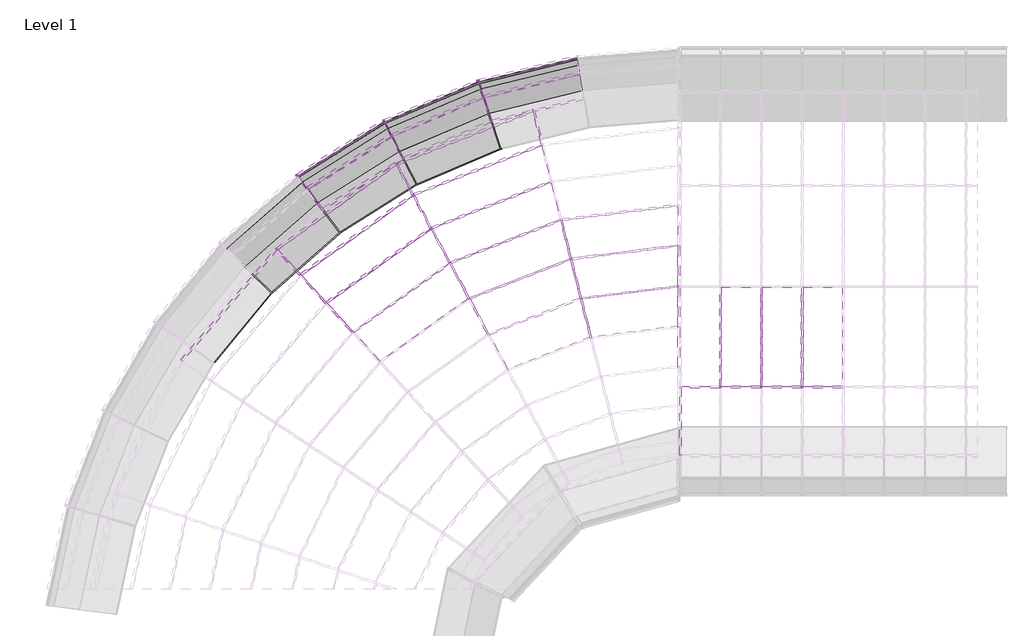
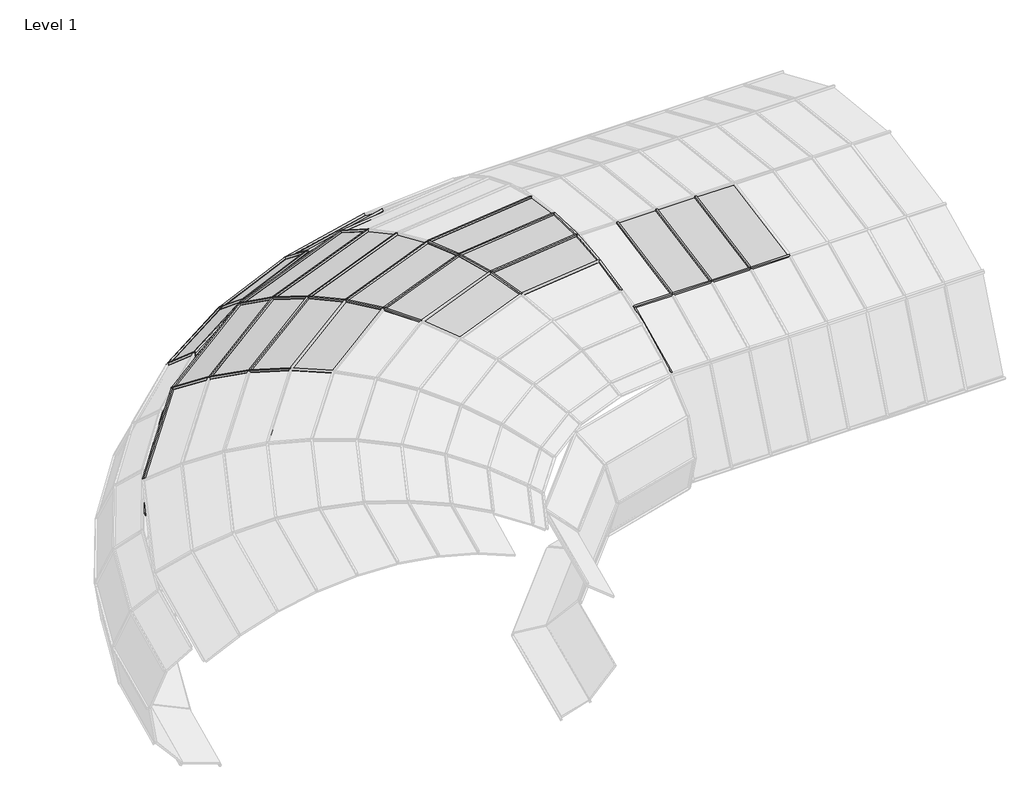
# One storey, part 16 of 23: 70 members, 32 plates.
"""IFC4 building model written with IfcOpenShell, lengths in millimetres."""

from ifc_helpers import new_model, si_unit, origin, place, context, project, spatial, transform, mapped, element, save
from components import member_6c4aaba8, member_0ea93e7c, member_bc92414a, member_01d9c279, member_f1f58849, member_12c77cbe, member_302b4213, member_af15374c, member_9c203333, member_86c07ba8, member_0e8a41c0, member_f532ae18, member_ff5bcfe9, member_5080b2ef, member_3e1f1dd8, member_d6b8231b, member_8c9da58c, member_391bee44, member_01ebdf2a, member_0cd36c09, member_e4cc2466, member_7149052c, member_309acb9e, member_fc38b671, member_bfbbd4af, member_a1b02127, system_panel_glazed_6e806f8e, system_panel_glazed_dfe8d515, system_panel_glazed_f0cf6c0b, system_panel_glazed_2b57bb89, system_panel_glazed_39caee5c, system_panel_glazed_2fe36e08, system_panel_glazed_8ac96967, system_panel_glazed_5e26bc8e, system_panel_glazed_f7be4813, system_panel_glazed_847a2d71, system_panel_glazed_5b1ce257, system_panel_glazed_11c8000a, system_panel_glazed_7bf4cd1b, system_panel_glazed_aea5d21f, system_panel_glazed_9f229a92

model = new_model("IFC4")

# Units and contexts
model_context = context("Model", 3, world=origin())
ifc_project = project(units=[si_unit("LENGTHUNIT", "METRE", prefix="MILLI")], contexts=[model_context])

# Site, building, storey
site = spatial("IfcSite", under=ifc_project)
building = spatial("IfcBuilding", under=site)
storey = spatial("IfcBuildingStorey", under=building, Name="Level 1", Elevation=0.0)

# Members
placement = place(None, origin())
member_shape = member_6c4aaba8(model_context)
element("IfcMember", 1, ObjectType="Rectangular Mullion : 1\" Square", at=placement, inside=storey, context=model_context, shape_type="MappedRepresentation", body=[
    mapped(member_shape, transform((-13870.6040784, 6009.9492025, 2378.3537392), x_axis=(0.32857999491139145, -0.8438545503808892, 0.4241988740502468), y_axis=(-0.15391787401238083, 0.39528973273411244, 0.9055690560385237), z_axis=(-0.9318500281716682, -0.3628436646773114, 0.0))),
])
element("IfcMember", 2, ObjectType="Rectangular Mullion : 1\" Square", at=placement, inside=storey, context=model_context, shape_type="MappedRepresentation", body=[
    mapped(member_shape, transform((-15552.429602, 4815.9839844, 2378.3537392), x_axis=(0.5253290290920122, -0.7376209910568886, 0.42419887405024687), y_axis=(-0.24608171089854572, 0.34552637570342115, 0.9055690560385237), z_axis=(-0.8145386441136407, -0.580109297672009, 0.0))),
])
member_2_shape = member_0ea93e7c(model_context)
element("IfcMember", 3, ObjectType="Rectangular Mullion : 1\" Square", at=placement, inside=storey, context=model_context, shape_type="MappedRepresentation", body=[
    mapped(member_2_shape, transform((-13322.0782596, 4994.0562422, 2763.3769688), x_axis=(0.3555541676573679, -0.9131292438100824, 0.1994397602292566), y_axis=(-0.07236545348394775, 0.18584794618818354, 0.97991008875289), z_axis=(-0.9318500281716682, -0.3628436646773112, 0.0))),
])
member_3_shape = member_bc92414a(model_context)
element("IfcMember", 4, ObjectType="Rectangular Mullion : 1\" Square", at=placement, inside=storey, context=model_context, shape_type="MappedRepresentation", body=[
    mapped(member_3_shape, transform((-11516.7637039, 5051.1067685, 2850.17796), x_axis=(0.12303904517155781, -0.9889921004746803, 0.082195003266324), y_axis=(-0.010147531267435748, 0.08156620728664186, 0.9966162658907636), z_axis=(-0.9923499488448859, -0.12345679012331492, 0.0))),
])
member_4_shape = member_01d9c279(model_context)
element("IfcMember", 5, ObjectType="Rectangular Mullion : 1\" Square", at=placement, inside=storey, context=model_context, shape_type="MappedRepresentation", body=[
    mapped(member_4_shape, transform((-13035.4016564, 4463.1190773, 2850.17796), x_axis=(0.36161589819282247, -0.9286968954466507, 0.082195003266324), y_axis=(-0.029823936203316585, 0.07659341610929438, 0.9966162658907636), z_axis=(-0.9318500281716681, -0.3628436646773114, 0.0))),
])
member_5_shape = member_f1f58849(model_context)
element("IfcMember", 6, ObjectType="Rectangular Mullion : 1\" Square", at=placement, inside=storey, context=model_context, shape_type="MappedRepresentation", body=[
    mapped(member_5_shape, transform((-11367.4380098, 4460.252916, 2864.5209769), x_axis=(0.12337601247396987, -0.9917006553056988, -0.03616863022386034), y_axis=(0.004465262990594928, -0.035891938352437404, 0.9993457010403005), z_axis=(-0.9923499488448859, -0.1234567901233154, 0.0))),
])
member_6_shape = member_12c77cbe(model_context)
element("IfcMember", 7, ObjectType="Rectangular Mullion : 1\" Square", at=placement, inside=storey, context=model_context, shape_type="MappedRepresentation", body=[
    mapped(member_6_shape, transform((-13601.8055633, 5512.1230112, 2605.3528615), x_axis=(0.34449616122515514, -0.8847302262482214, 0.3139662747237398), y_axis=(-0.11392067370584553, 0.2925694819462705, 0.9494341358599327), z_axis=(-0.9318500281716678, -0.36284366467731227, 0.0))),
])
element("IfcMember", 8, ObjectType="Rectangular Mullion : 1\" Square", at=placement, inside=storey, context=model_context, shape_type="MappedRepresentation", body=[
    mapped(member_6_shape, transform((-15169.845212, 4399.1953773, 2605.3528615), x_axis=(0.5507755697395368, -0.7733507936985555, 0.31396627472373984), y_axis=(-0.18213475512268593, 0.2557376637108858, 0.9494341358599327), z_axis=(-0.8145386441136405, -0.5801092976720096, 0.0))),
])
member_7_shape = member_302b4213(model_context)
element("IfcMember", 9, ObjectType="Rectangular Mullion : 1\" Square", at=placement, inside=storey, context=model_context, shape_type="MappedRepresentation", body=[
    mapped(member_7_shape, transform((-11664.6087907, 5636.1021345, 2763.3769688), x_axis=(0.12097655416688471, -0.9724137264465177, 0.19943976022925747), y_axis=(-0.024622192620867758, 0.19791403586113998, 0.9799100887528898), z_axis=(-0.9923499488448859, -0.12345679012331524, 0.0))),
])
member_8_shape = member_af15374c(model_context)
element("IfcMember", 10, ObjectType="Rectangular Mullion : 1\" Square", at=placement, inside=storey, context=model_context, shape_type="MappedRepresentation", body=[
    mapped(member_8_shape, transform((-12102.9489621, 7267.6622372, 2085.6089632), x_axis=(-0.317700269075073, 0.8159133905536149, -0.4830650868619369), y_axis=(-0.17527710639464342, 0.4501442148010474, 0.8755844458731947), z_axis=(0.9318500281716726, 0.3628436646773, 0.0))),
])
element("IfcMember", 11, ObjectType="Rectangular Mullion : 1\" Square", at=placement, inside=storey, context=model_context, shape_type="MappedRepresentation", body=[
    mapped(member_8_shape, transform((-14146.8289283, 6468.4770808, 2085.6089632), x_axis=(-0.5079346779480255, 0.713197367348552, -0.4830650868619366), y_axis=(-0.2802305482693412, 0.39347518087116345, 0.875584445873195), z_axis=(0.8145386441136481, 0.5801092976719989, 0.0))),
])
element("IfcMember", 12, ObjectType="Rectangular Mullion : 1\" Square", at=placement, inside=storey, context=model_context, shape_type="MappedRepresentation", body=[
    mapped(member_8_shape, transform((-15932.5848922, 5192.8525797, 2085.6089632), x_axis=(-0.6672021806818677, 0.5670003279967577, -0.483065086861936), y_axis=(-0.36809936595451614, 0.3128174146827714, 0.8755844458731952), z_axis=(0.6475678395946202, 0.7620078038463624, 0.0))),
])
member_9_shape = member_9c203333(model_context)
element("IfcMember", 13, ObjectType="Rectangular Mullion : 1\" Square", at=placement, inside=storey, context=model_context, shape_type="MappedRepresentation", body=[
    mapped(member_9_shape, transform((-12588.5806813, 6676.4681732, 0.0), x_axis=(0.3741630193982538, -0.8837244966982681, -0.28112817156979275), y_axis=(-0.1096082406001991, 0.25888044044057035, -0.9596702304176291), z_axis=(0.9208626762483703, 0.3898870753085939, 0.0))),
])
element("IfcMember", 14, ObjectType="Rectangular Mullion : 1\" Square", at=placement, inside=storey, context=model_context, shape_type="MappedRepresentation", body=[
    mapped(member_9_shape, transform((-13834.1073019, 6146.9205679, 0.0), x_axis=(0.5103428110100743, -0.8127220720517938, -0.28112817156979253), y_axis=(-0.14950108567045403, 0.23808081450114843, -0.9596702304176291), z_axis=(0.8468764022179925, 0.531789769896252, 0.0))),
])
element("IfcMember", 15, ObjectType="Rectangular Mullion : 1\" Square", at=placement, inside=storey, context=model_context, shape_type="MappedRepresentation", body=[
    mapped(member_9_shape, transform((-14979.2117366, 5425.4685167, 0.0), x_axis=(0.6334525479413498, -0.7209055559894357, -0.28112817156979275), y_axis=(-0.1855651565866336, 0.2111838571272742, -0.959670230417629), z_axis=(0.7512013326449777, 0.6600731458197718, 0.0))),
])
element("IfcMember", 16, ObjectType="Rectangular Mullion : 1\" Square", at=placement, inside=storey, context=model_context, shape_type="MappedRepresentation", body=[
    mapped(member_9_shape, transform((-15994.5674676, 4530.5886543, 0.0), x_axis=(0.7403393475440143, -0.6106264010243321, -0.2811281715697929), y_axis=(-0.2168768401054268, 0.1788784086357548, -0.9596702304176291), z_axis=(0.6362877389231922, 0.7714518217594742, 0.0))),
])
member_10_shape = member_86c07ba8(model_context)
element("IfcMember", 17, ObjectType="Rectangular Mullion : 1\" Square", at=placement, inside=storey, context=model_context, shape_type="MappedRepresentation", body=[
    mapped(member_10_shape, transform((-12748.8495304, 7239.8248197, 170.8694653), x_axis=(-0.20088097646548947, 0.8197872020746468, 0.5362795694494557), y_axis=(-0.1276341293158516, 0.5208697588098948, -0.8440404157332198), z_axis=(-0.9712653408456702, -0.23799923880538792, 0.0))),
])
element("IfcMember", 18, ObjectType="Rectangular Mullion : 1\" Square", at=placement, inside=storey, context=model_context, shape_type="MappedRepresentation", body=[
    mapped(member_10_shape, transform((-14082.1900751, 6677.4973793, 170.8694653), x_axis=(-0.32908044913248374, 0.7772453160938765, 0.536279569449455), y_axis=(-0.2090884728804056, 0.49383983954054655, -0.8440404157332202), z_axis=(-0.9208626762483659, -0.3898870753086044, 0.0))),
])
element("IfcMember", 19, ObjectType="Rectangular Mullion : 1\" Square", at=placement, inside=storey, context=model_context, shape_type="MappedRepresentation", body=[
    mapped(member_10_shape, transform((-15308.754949, 5909.6772385, 170.8694653), x_axis=(-0.4488520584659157, 0.7147979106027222, 0.5362795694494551), y_axis=(-0.28518798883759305, 0.45416251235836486, -0.8440404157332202), z_axis=(-0.8468764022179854, -0.5317897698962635, 0.0))),
])
member_11_shape = member_0e8a41c0(model_context)
element("IfcMember", 20, ObjectType="Rectangular Mullion : 1\" Square", at=placement, inside=storey, context=model_context, shape_type="MappedRepresentation", body=[
    mapped(member_11_shape, transform((-12875.2293221, 7620.6688342, 629.7792003), x_axis=(-0.10050189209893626, 0.4101441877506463, 0.9064662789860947), y_axis=(-0.21573828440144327, 0.8804192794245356, -0.42227820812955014), z_axis=(-0.9712653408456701, -0.23799923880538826, 0.0))),
])
element("IfcMember", 21, ObjectType="Rectangular Mullion : 1\" Square", at=placement, inside=storey, context=model_context, shape_type="MappedRepresentation", body=[
    mapped(member_11_shape, transform((-14267.7034794, 7033.3046192, 629.7792003), x_axis=(-0.16464081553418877, 0.3888602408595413, 0.9064662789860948), y_axis=(-0.3534194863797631, 0.8347309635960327, -0.42227820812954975), z_axis=(-0.9208626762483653, -0.3898870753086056, 0.0))),
])
element("IfcMember", 22, ObjectType="Rectangular Mullion : 1\" Square", at=placement, inside=storey, context=model_context, shape_type="MappedRepresentation", body=[
    mapped(member_11_shape, transform((-15548.650904, 6231.3353582, 629.7792003), x_axis=(-0.2245632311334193, 0.357617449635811, 0.9064662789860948), y_axis=(-0.48204949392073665, 0.7676649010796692, -0.42227820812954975), z_axis=(-0.846876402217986, -0.5317897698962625, 0.0))),
])
member_12_shape = member_f532ae18(model_context)
element("IfcMember", 23, ObjectType="Rectangular Mullion : 1\" Square", at=placement, inside=storey, context=model_context, shape_type="MappedRepresentation", body=[
    mapped(member_12_shape, transform((-12903.9730127, 7707.2876077, 1232.5089476), x_axis=(0.031882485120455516, -0.13011114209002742, 0.9909866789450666), y_axis=(-0.2358540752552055, 0.9625110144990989, 0.13396044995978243), z_axis=(-0.9712653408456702, -0.2379992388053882, 0.0))),
])
element("IfcMember", 24, ObjectType="Rectangular Mullion : 1\" Square", at=placement, inside=storey, context=model_context, shape_type="MappedRepresentation", body=[
    mapped(member_12_shape, transform((-14309.8964585, 7114.2290542, 1232.5089476), x_axis=(0.05222944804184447, -0.12335917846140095, 0.9909866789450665), y_axis=(-0.38637289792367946, 0.9125626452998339, 0.13396044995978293), z_axis=(-0.9208626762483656, -0.3898870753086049, 0.0))),
])
element("IfcMember", 25, ObjectType="Rectangular Mullion : 1\" Square", at=placement, inside=storey, context=model_context, shape_type="MappedRepresentation", body=[
    mapped(member_12_shape, transform((-15603.2125948, 6304.4929522, 1232.5089476), x_axis=(0.07123879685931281, -0.11344794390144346, 0.9909866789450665), y_axis=(-0.5269965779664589, 0.8392432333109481, 0.13396044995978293), z_axis=(-0.8468764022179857, -0.531789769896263, 0.0))),
])
member_13_shape = member_ff5bcfe9(model_context)
element("IfcMember", 26, ObjectType="Rectangular Mullion : 1\" Square", at=placement, inside=storey, context=model_context, shape_type="MappedRepresentation", body=[
    mapped(member_13_shape, transform((-12826.0474045, 7472.4597045, 1789.6405438), x_axis=(0.15408048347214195, -0.6287962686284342, 0.7621512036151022), y_axis=(-0.18139140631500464, 0.7402510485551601, 0.6473990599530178), z_axis=(-0.9712653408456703, -0.23799923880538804, 0.0))),
])
element("IfcMember", 27, ObjectType="Rectangular Mullion : 1\" Square", at=placement, inside=storey, context=model_context, shape_type="MappedRepresentation", body=[
    mapped(member_13_shape, transform((-14195.5091448, 6894.8387923, 1789.6405438), x_axis=(0.25241252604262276, -0.5961656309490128, 0.7621512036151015), y_axis=(-0.2971529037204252, 0.7018365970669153, 0.6473990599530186), z_axis=(-0.9208626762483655, -0.3898870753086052, 0.0))),
])
element("IfcMember", 28, ObjectType="Rectangular Mullion : 1\" Square", at=placement, inside=storey, context=model_context, shape_type="MappedRepresentation", body=[
    mapped(member_13_shape, transform((-15455.2930741, 6106.1589916, 1789.6405438), x_axis=(0.34428019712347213, -0.5482669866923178, 0.7621512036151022), y_axis=(-0.40530421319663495, 0.6454478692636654, 0.6473990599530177), z_axis=(-0.8468764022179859, -0.5317897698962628, 0.0))),
])
member_14_shape = member_5080b2ef(model_context)
element("IfcMember", 29, ObjectType="Rectangular Mullion : 1\" Square", at=placement, inside=storey, context=model_context, shape_type="MappedRepresentation", body=[
    mapped(member_14_shape, transform((-12700.4125264, 7093.8604783, 2085.6089632), x_axis=(0.19091613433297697, -0.7791210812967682, 0.5970941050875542), y_axis=(-0.14210794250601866, 0.5799368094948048, 0.8021711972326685), z_axis=(-0.9712653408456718, -0.23799923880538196, 0.0))),
])
element("IfcMember", 30, ObjectType="Rectangular Mullion : 1\" Square", at=placement, inside=storey, context=model_context, shape_type="MappedRepresentation", body=[
    mapped(member_14_shape, transform((-14011.0892022, 6541.1287679, 2085.6089632), x_axis=(0.31275618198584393, -0.7386895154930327, 0.5970941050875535), y_axis=(-0.2327992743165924, 0.5498416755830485, 0.8021711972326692), z_axis=(-0.9208626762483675, -0.3898870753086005, 0.0))),
])
element("IfcMember", 31, ObjectType="Rectangular Mullion : 1\" Square", at=placement, inside=storey, context=model_context, shape_type="MappedRepresentation", body=[
    mapped(member_14_shape, transform((-15216.8111249, 5786.396804, 2085.6089632), x_axis=(0.4265864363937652, -0.6793398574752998, 0.5970941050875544), y_axis=(-0.31752853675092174, 0.5056649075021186, 0.8021711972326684), z_axis=(-0.84687640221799, -0.5317897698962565, 0.0))),
])
member_15_shape = member_3e1f1dd8(model_context)
element("IfcMember", 32, ObjectType="Rectangular Mullion : 1\" Square", at=placement, inside=storey, context=model_context, shape_type="MappedRepresentation", body=[
    mapped(member_15_shape, transform((-9303.3499814, 3134.3722562, 2579.8319299), x_axis=(0.0, -0.9436447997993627, -0.33095995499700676), y_axis=(0.0, -0.33095995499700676, 0.9436447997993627), z_axis=(-1.0, 0.0, 0.0))),
])
element("IfcMember", 33, ObjectType="Rectangular Mullion : 1\" Square", at=placement, inside=storey, context=model_context, shape_type="MappedRepresentation", body=[
    mapped(member_15_shape, transform((-8693.7499814, 3134.3722562, 2579.8319299), x_axis=(0.0, -0.9436447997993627, -0.33095995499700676), y_axis=(0.0, -0.33095995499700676, 0.9436447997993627), z_axis=(-1.0, 0.0, 0.0))),
])
element("IfcMember", 34, ObjectType="Rectangular Mullion : 1\" Square", at=placement, inside=storey, context=model_context, shape_type="MappedRepresentation", body=[
    mapped(member_15_shape, transform((-8084.1499814, 3134.3722562, 2579.8319299), x_axis=(0.0, -0.9436447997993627, -0.33095995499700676), y_axis=(0.0, -0.33095995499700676, 0.9436447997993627), z_axis=(-1.0, 0.0, 0.0))),
])
element("IfcMember", 35, ObjectType="Rectangular Mullion : 1\" Square", at=placement, inside=storey, context=model_context, shape_type="MappedRepresentation", body=[
    mapped(member_15_shape, transform((-9912.9499814, 3134.3722562, 2579.8319299), x_axis=(0.0, -0.9436447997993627, -0.33095995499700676), y_axis=(0.0, -0.33095995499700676, 0.9436447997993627), z_axis=(-1.0, 0.0, 0.0))),
])
member_16_shape = member_d6b8231b(model_context)
element("IfcMember", 36, ObjectType="Rectangular Mullion : 1\" Square", at=placement, inside=storey, context=model_context, shape_type="MappedRepresentation", body=[
    mapped(member_16_shape, transform((-12576.8857253, 6681.4197391, 0.0), x_axis=(-0.9491072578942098, -0.31495303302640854, 0.0), y_axis=(-0.08828060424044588, 0.26603256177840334, -0.9599131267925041), z_axis=(0.3023275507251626, -0.9110605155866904, -0.2802976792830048))),
])
element("IfcMember", 37, ObjectType="Rectangular Mullion : 1\" Square", at=placement, inside=storey, context=model_context, shape_type="MappedRepresentation", body=[
    mapped(member_16_shape, transform((-13823.3519715, 6153.674298, 0.0), x_axis=(-0.8867127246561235, -0.4623208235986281, 0.0), y_axis=(-0.12958745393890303, 0.2485435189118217, -0.959913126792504), z_axis=(0.4437878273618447, -0.85116718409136, -0.2802976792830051))),
])
element("IfcMember", 38, ObjectType="Rectangular Mullion : 1\" Square", at=placement, inside=storey, context=model_context, shape_type="MappedRepresentation", body=[
    mapped(member_16_shape, transform((-15986.4866134, 4540.3860924, 0.0), x_axis=(-0.6959761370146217, -0.7180649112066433, 0.0), y_axis=(-0.2012719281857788, 0.1950804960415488, -0.9599131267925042), z_axis=(0.6892799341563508, -0.6680766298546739, -0.2802976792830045))),
])
element("IfcMember", 39, ObjectType="Rectangular Mullion : 1\" Square", at=placement, inside=storey, context=model_context, shape_type="MappedRepresentation", body=[
    mapped(member_16_shape, transform((-14969.6714797, 5433.8514456, 0.0), x_axis=(-0.8016091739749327, -0.5978484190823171, 0.0), y_axis=(-0.16757552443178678, 0.22468919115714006, -0.959913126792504), z_axis=(0.5738825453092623, -0.769475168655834, -0.28029767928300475))),
])
member_17_shape = member_8c9da58c(model_context)
element("IfcMember", 40, ObjectType="Rectangular Mullion : 1\" Square", at=placement, inside=storey, context=model_context, shape_type="MappedRepresentation", body=[
    mapped(member_17_shape, transform((-12761.1846002, 7236.8022294, 170.8694653), x_axis=(-0.949107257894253, -0.3149530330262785, 0.0), y_axis=(-0.23709811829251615, 0.7144923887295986, -0.658243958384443), z_axis=(0.20731593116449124, -0.6247441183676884, -0.7528046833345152))),
])
element("IfcMember", 41, ObjectType="Rectangular Mullion : 1\" Square", at=placement, inside=storey, context=model_context, shape_type="MappedRepresentation", body=[
    mapped(member_17_shape, transform((-12887.5643919, 7617.6462439, 629.7792003), x_axis=(-0.9491072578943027, -0.3149530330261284, 0.0), y_axis=(-0.3114034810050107, 0.9384107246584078, -0.1497103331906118), z_axis=(0.04715172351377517, -0.14209116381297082, -0.9887299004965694))),
])
element("IfcMember", 42, ObjectType="Rectangular Mullion : 1\" Square", at=placement, inside=storey, context=model_context, shape_type="MappedRepresentation", body=[
    mapped(member_17_shape, transform((-14093.8850311, 6672.5458134, 170.8694653), x_axis=(-0.8867127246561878, -0.46232082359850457, 0.0), y_axis=(-0.34803728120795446, 0.6675214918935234, -0.6582439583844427), z_axis=(0.30431988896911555, -0.5836732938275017, -0.7528046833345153))),
])
element("IfcMember", 43, ObjectType="Rectangular Mullion : 1\" Square", at=placement, inside=storey, context=model_context, shape_type="MappedRepresentation", body=[
    mapped(member_17_shape, transform((-14279.3984354, 7028.3530534, 629.7792003), x_axis=(-0.886712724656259, -0.46232082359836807, 0.0), y_axis=(-0.45711042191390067, 0.876719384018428, -0.14971033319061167), z_axis=(0.06921420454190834, -0.13275005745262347, -0.9887299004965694))),
])
element("IfcMember", 44, ObjectType="Rectangular Mullion : 1\" Square", at=placement, inside=storey, context=model_context, shape_type="MappedRepresentation", body=[
    mapped(member_17_shape, transform((-15319.5102793, 5902.9235085, 170.8694653), x_axis=(-0.8016091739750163, -0.5978484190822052, 0.0), y_axis=(-0.45006308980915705, 0.6034551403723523, -0.6582439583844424), z_axis=(0.3935301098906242, -0.5276543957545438, -0.7528046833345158))),
])
element("IfcMember", 45, ObjectType="Rectangular Mullion : 1\" Square", at=placement, inside=storey, context=model_context, shape_type="MappedRepresentation", body=[
    mapped(member_17_shape, transform((-15559.4062343, 6224.5816281, 629.7792003), x_axis=(-0.8016091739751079, -0.5978484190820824, 0.0), y_axis=(-0.5911106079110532, 0.7925749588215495, -0.14971033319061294), z_axis=(0.08950408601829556, -0.12000917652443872, -0.9887299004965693))),
])
member_18_shape = member_391bee44(model_context)
element("IfcMember", 46, ObjectType="Rectangular Mullion : 1\" Square", at=placement, inside=storey, context=model_context, shape_type="MappedRepresentation", body=[
    mapped(member_18_shape, transform((-12916.3080825, 7704.2650174, 1232.5089476), x_axis=(-0.9491072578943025, -0.31495303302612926, 0.0), y_axis=(-0.2878449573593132, 0.867417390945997, 0.4058723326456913), z_axis=(-0.12783072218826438, 0.38521637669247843, -0.9139297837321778))),
])
element("IfcMember", 47, ObjectType="Rectangular Mullion : 1\" Square", at=placement, inside=storey, context=model_context, shape_type="MappedRepresentation", body=[
    mapped(member_18_shape, transform((-14321.5914145, 7109.2774884, 1232.5089476), x_axis=(-0.886712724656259, -0.46232082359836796, 0.0), y_axis=(-0.4225287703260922, 0.8103931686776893, 0.4058723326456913), z_axis=(-0.1876432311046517, 0.3598921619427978, -0.9139297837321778))),
])
element("IfcMember", 48, ObjectType="Rectangular Mullion : 1\" Square", at=placement, inside=storey, context=model_context, shape_type="MappedRepresentation", body=[
    mapped(member_18_shape, transform((-15613.9679251, 6297.7392221, 1232.5089476), x_axis=(-0.8016091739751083, -0.5978484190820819, 0.0), y_axis=(-0.5463914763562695, 0.7326144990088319, 0.4058723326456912), z_axis=(-0.24265013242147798, 0.32535098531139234, -0.9139297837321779))),
])
member_19_shape = member_01ebdf2a(model_context)
element("IfcMember", 49, ObjectType="Rectangular Mullion : 1\" Square", at=placement, inside=storey, context=model_context, shape_type="MappedRepresentation", body=[
    mapped(member_19_shape, transform((-12838.3824743, 7469.4371141, 1789.6405438), x_axis=(-0.9491072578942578, -0.31495303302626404, 0.0), y_axis=(-0.18766792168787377, 0.5655350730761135, 0.8030883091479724), z_axis=(-0.2529350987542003, 0.7622169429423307, -0.5958600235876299))),
])
element("IfcMember", 50, ObjectType="Rectangular Mullion : 1\" Square", at=placement, inside=storey, context=model_context, shape_type="MappedRepresentation", body=[
    mapped(member_19_shape, transform((-14207.2041008, 6889.8872265, 1789.6405438), x_axis=(-0.8867127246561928, -0.462320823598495, 0.0), y_axis=(-0.2754784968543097, 0.5283566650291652, 0.803088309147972), z_axis=(-0.37128444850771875, 0.7121086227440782, -0.5958600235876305))),
])
element("IfcMember", 51, ObjectType="Rectangular Mullion : 1\" Square", at=placement, inside=storey, context=model_context, shape_type="MappedRepresentation", body=[
    mapped(member_19_shape, transform((-15466.0484044, 6099.4052615, 1789.6405438), x_axis=(-0.801609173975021, -0.5978484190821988, 0.0), y_axis=(-0.3562339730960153, 0.47764686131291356, 0.8030883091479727), z_axis=(-0.4801250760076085, 0.6437629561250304, -0.5958600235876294))),
])
member_20_shape = member_0cd36c09(model_context)
element("IfcMember", 52, ObjectType="Rectangular Mullion : 1\" Square", at=placement, inside=storey, context=model_context, shape_type="MappedRepresentation", body=[
    mapped(member_20_shape, transform((-11677.211635, 5634.5342332, 2763.3769688), x_axis=(-0.9695168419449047, -0.24502467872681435, 0.0), y_axis=(-0.03488908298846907, 0.13804957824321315, 0.9898106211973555), z_axis=(-0.24252802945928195, 0.9596380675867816, -0.14239007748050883))),
])
element("IfcMember", 53, ObjectType="Rectangular Mullion : 1\" Square", at=placement, inside=storey, context=model_context, shape_type="MappedRepresentation", body=[
    mapped(member_20_shape, transform((-11529.3665483, 5049.5388672, 2850.17796), x_axis=(-0.969516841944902, -0.24502467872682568, 0.0), y_axis=(-0.005765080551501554, 0.022811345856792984, 0.9997231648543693), z_axis=(-0.24495684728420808, 0.9692484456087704, -0.023528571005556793))),
])
element("IfcMember", 54, ObjectType="Rectangular Mullion : 1\" Square", at=placement, inside=storey, context=model_context, shape_type="MappedRepresentation", body=[
    mapped(member_20_shape, transform((-13882.4385737, 6005.341088, 2378.3537392), x_axis=(-0.8799258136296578, -0.47511110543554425, 0.0), y_axis=(-0.1769189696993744, 0.3276613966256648, 0.9280828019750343), z_axis=(-0.4409424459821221, 0.8166440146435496, -0.3723738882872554))),
])
element("IfcMember", 55, ObjectType="Rectangular Mullion : 1\" Square", at=placement, inside=storey, context=model_context, shape_type="MappedRepresentation", body=[
    mapped(member_20_shape, transform((-13613.6400587, 5507.5148967, 2605.3528615), x_axis=(-0.8799258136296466, -0.47511110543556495, 0.0), y_axis=(-0.12316110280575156, 0.22809955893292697, 0.9658167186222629), z_axis=(-0.4588702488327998, 0.8498470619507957, -0.2592258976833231))),
])
element("IfcMember", 56, ObjectType="Rectangular Mullion : 1\" Square", at=placement, inside=storey, context=model_context, shape_type="MappedRepresentation", body=[
    mapped(member_20_shape, transform((-13333.912755, 4989.4481277, 2763.3769688), x_axis=(-0.8799258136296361, -0.4751111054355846, 0.0), y_axis=(-0.06765110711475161, 0.12529270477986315, 0.9898106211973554), z_axis=(-0.4702700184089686, 0.8709599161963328, -0.14239007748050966))),
])
element("IfcMember", 57, ObjectType="Rectangular Mullion : 1\" Square", at=placement, inside=storey, context=model_context, shape_type="MappedRepresentation", body=[
    mapped(member_20_shape, transform((-13047.2361517, 4458.5109628, 2850.17796), x_axis=(-0.8799258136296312, -0.4751111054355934, 0.0), y_axis=(-0.011178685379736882, 0.020703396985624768, 0.9997231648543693), z_axis=(-0.4749795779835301, 0.8796822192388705, -0.023528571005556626))),
])
element("IfcMember", 58, ObjectType="Rectangular Mullion : 1\" Square", at=placement, inside=storey, context=model_context, shape_type="MappedRepresentation", body=[
    mapped(member_20_shape, transform((-15562.7742428, 4808.6165963, 2378.3537392), x_axis=(-0.7366889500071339, -0.6762317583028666, 0.0), y_axis=(-0.25181104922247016, 0.27432372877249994, 0.9280828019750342), z_axis=(-0.6275990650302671, 0.6837083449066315, -0.37237388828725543))),
])
element("IfcMember", 59, ObjectType="Rectangular Mullion : 1\" Square", at=placement, inside=storey, context=model_context, shape_type="MappedRepresentation", body=[
    mapped(member_20_shape, transform((-15180.1898528, 4391.8279892, 2605.3528615), x_axis=(-0.7366889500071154, -0.6762317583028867, 0.0), y_axis=(-0.17529678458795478, 0.1909688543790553, 0.9658167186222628), z_axis=(-0.6531159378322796, 0.7115065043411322, -0.25922589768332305))),
])
element("IfcMember", 60, ObjectType="Rectangular Mullion : 1\" Square", at=placement, inside=storey, context=model_context, shape_type="MappedRepresentation", body=[
    mapped(member_20_shape, transform((-11380.0408541, 4458.6850148, 2864.5209769), x_axis=(-0.9695168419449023, -0.24502467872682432, 0.0), y_axis=(0.023440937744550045, -0.09275140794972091, 0.9954133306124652), z_axis=(-0.24390083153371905, 0.9650699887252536, 0.09566766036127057))),
])
member_21_shape = member_e4cc2466(model_context)
element("IfcMember", 61, ObjectType="Rectangular Mullion : 1\" Square", at=placement, inside=storey, context=model_context, shape_type="MappedRepresentation", body=[
    mapped(member_21_shape, transform((-15924.3607807, 5202.5300788, 2085.6089632), x_axis=(-0.7366889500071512, -0.6762317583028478, 0.0), y_axis=(-0.32474297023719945, 0.3537759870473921, 0.8771456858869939), z_axis=(-0.5931537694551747, 0.6461835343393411, -0.48022437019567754))),
])
element("IfcMember", 62, ObjectType="Rectangular Mullion : 1\" Square", at=placement, inside=storey, context=model_context, shape_type="MappedRepresentation", body=[
    mapped(member_21_shape, transform((-14136.4842875, 6475.8444688, 2085.6089632), x_axis=(-0.8799258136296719, -0.475111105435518, 0.0), y_axis=(-0.22815993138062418, 0.4225618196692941, 0.8771456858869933), z_axis=(-0.4167416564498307, 0.7718231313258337, -0.4802243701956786))),
])
element("IfcMember", 63, ObjectType="Rectangular Mullion : 1\" Square", at=placement, inside=storey, context=model_context, shape_type="MappedRepresentation", body=[
    mapped(member_21_shape, transform((-12091.1144667, 7272.2703517, 2085.6089632), x_axis=(-0.9695168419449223, -0.24502467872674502, 0.0), y_axis=(-0.11766682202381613, 0.46558561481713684, 0.8771456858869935), z_axis=(-0.21492233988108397, 0.8504075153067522, -0.48022437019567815))),
])
member_22_shape = member_7149052c(model_context)
element("IfcMember", 64, ObjectType="Rectangular Mullion : 1\" Square", at=placement, inside=storey, context=model_context, shape_type="MappedRepresentation", body=[
    mapped(member_22_shape, transform((-9912.9499814, 4641.2036214, 2864.5209769), x_axis=(0.999995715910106, 6.887147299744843e-05, 0.0029263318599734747), y_axis=(-0.0029271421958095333, 0.02352847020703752, 0.9997188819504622), z_axis=(0.0, -0.9997231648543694, 0.02352857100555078))),
])
member_23_shape = member_309acb9e(model_context)
element("IfcMember", 65, ObjectType="Rectangular Mullion : 1\" Square", at=placement, inside=storey, context=model_context, shape_type="MappedRepresentation", body=[
    mapped(member_23_shape, transform((-8693.7499814, 3146.8492645, 2582.2013738), x_axis=(1.0, 0.0, 0.0), y_axis=(0.0, -0.18657038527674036, 0.9824415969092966), z_axis=(0.0, -0.9824415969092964, -0.18657038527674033))),
])
element("IfcMember", 66, ObjectType="Rectangular Mullion : 1\" Square", at=placement, inside=storey, context=model_context, shape_type="MappedRepresentation", body=[
    mapped(member_23_shape, transform((-9303.3499814, 3146.8492645, 2582.2013738), x_axis=(1.0, 0.0, 0.0), y_axis=(0.0, -0.18657038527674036, 0.9824415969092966), z_axis=(0.0, -0.9824415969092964, -0.18657038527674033))),
])
element("IfcMember", 67, ObjectType="Rectangular Mullion : 1\" Square", at=placement, inside=storey, context=model_context, shape_type="MappedRepresentation", body=[
    mapped(member_23_shape, transform((-8084.1499814, 3146.8492645, 2582.2013738), x_axis=(1.0, 0.0, 0.0), y_axis=(0.0, -0.18657038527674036, 0.9824415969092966), z_axis=(0.0, -0.9824415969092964, -0.18657038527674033))),
])
member_24_shape = member_fc38b671(model_context)
element("IfcMember", 68, ObjectType="Rectangular Mullion : 1\" Square", at=placement, inside=storey, context=model_context, shape_type="MappedRepresentation", body=[
    mapped(member_24_shape, transform((-9912.9499814, 4034.3996551, 2806.2019711), x_axis=(0.9999291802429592, 0.0011385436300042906, -0.011846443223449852), y_axis=(0.011901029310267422, -0.0956608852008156, 0.995342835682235), z_axis=(0.0, -0.9954133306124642, -0.09566766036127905))),
])
member_25_shape = member_bfbbd4af(model_context)
element("IfcMember", 69, ObjectType="Rectangular Mullion : 1\" Square", at=placement, inside=storey, context=model_context, shape_type="MappedRepresentation", body=[
    mapped(member_25_shape, transform((-9912.9499814, 3438.8555488, 2676.0506073), x_axis=(0.999647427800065, 0.005668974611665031, -0.025939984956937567), y_axis=(0.026552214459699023, -0.2134276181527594, 0.9765979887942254), z_axis=(0.0, -0.9769424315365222, -0.21350289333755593))),
])
member_26_shape = member_a1b02127(model_context)
element("IfcMember", 70, ObjectType="Rectangular Mullion : 1\" Square", at=placement, inside=storey, context=model_context, shape_type="MappedRepresentation", body=[
    mapped(member_26_shape, transform((-9912.9499814, 3122.930794, 2574.3198574), x_axis=(-1.0, 0.0, 0.0), y_axis=(0.0, -0.4340214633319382, 0.9009025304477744), z_axis=(0.0, 0.9009025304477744, 0.4340214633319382))),
])

# Plates
system_panel_glazed_shape = system_panel_glazed_6e806f8e(model_context)
element("IfcPlate", 71, ObjectType="System Panel : Glazed", at=placement, inside=storey, context=model_context, shape_type="MappedRepresentation", body=[
    mapped(system_panel_glazed_shape, transform((-9290.6499814, 3882.992753, 2721.9985635), x_axis=(0.0, -0.9824415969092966, -0.18657038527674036), y_axis=(0.0, 0.18657038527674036, -0.9824415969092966), z_axis=(1.0, 0.0, 0.0))),
])
element("IfcPlate", 72, ObjectType="System Panel : Glazed", at=placement, inside=storey, context=model_context, shape_type="MappedRepresentation", body=[
    mapped(system_panel_glazed_shape, transform((-8681.0499814, 3882.992753, 2721.9985635), x_axis=(0.0, -0.9824415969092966, -0.18657038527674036), y_axis=(0.0, 0.18657038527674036, -0.9824415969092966), z_axis=(1.0, 0.0, 0.0))),
])
element("IfcPlate", 73, ObjectType="System Panel : Glazed", at=placement, inside=storey, context=model_context, shape_type="MappedRepresentation", body=[
    mapped(system_panel_glazed_shape, transform((-8071.4499814, 3882.992753, 2721.9985635), x_axis=(0.0, -0.9824415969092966, -0.18657038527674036), y_axis=(0.0, 0.18657038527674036, -0.9824415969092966), z_axis=(1.0, 0.0, 0.0))),
])
system_panel_glazed_2_shape = system_panel_glazed_dfe8d515(model_context)
element("IfcPlate", 74, ObjectType="System Panel : Glazed", at=placement, inside=storey, context=model_context, shape_type="MappedRepresentation", body=[
    mapped(system_panel_glazed_2_shape, transform((-13209.6225891, 6439.9936208, 7.1406556), x_axis=(-0.9208626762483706, -0.3898870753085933, 0.0), y_axis=(0.10960824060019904, -0.2588804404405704, 0.9596702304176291), z_axis=(-0.3741630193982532, 0.8837244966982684, 0.28112817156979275))),
])
element("IfcPlate", 75, ObjectType="System Panel : Glazed", at=placement, inside=storey, context=model_context, shape_type="MappedRepresentation", body=[
    mapped(system_panel_glazed_2_shape, transform((-14409.474433, 5814.4060125, 7.1406556), x_axis=(-0.8468764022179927, -0.5317897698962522, 0.0), y_axis=(0.14950108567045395, -0.23808081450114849, 0.9596702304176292), z_axis=(-0.5103428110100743, 0.8127220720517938, 0.28112817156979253))),
])
element("IfcPlate", 76, ObjectType="System Panel : Glazed", at=placement, inside=storey, context=model_context, shape_type="MappedRepresentation", body=[
    mapped(system_panel_glazed_2_shape, transform((-15494.1687412, 5005.4297702, 7.1406556), x_axis=(-0.7512013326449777, -0.6600731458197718, 0.0), y_axis=(0.18556515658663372, -0.21118385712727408, 0.959670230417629), z_axis=(-0.6334525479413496, 0.7209055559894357, 0.28112817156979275))),
])
system_panel_glazed_3_shape = system_panel_glazed_f0cf6c0b(model_context)
element("IfcPlate", 77, ObjectType="System Panel : Glazed", at=placement, inside=storey, context=model_context, shape_type="MappedRepresentation", body=[
    mapped(system_panel_glazed_3_shape, transform((-12060.3482303, 7417.1267927, 180.4433737), x_axis=(-0.9712653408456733, -0.23799923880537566, 0.0), y_axis=(0.17941597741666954, -0.7321894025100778, 0.6570453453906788), z_axis=(-0.15637629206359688, 0.6381653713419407, 0.7538510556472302))),
])
element("IfcPlate", 78, ObjectType="System Panel : Glazed", at=placement, inside=storey, context=model_context, shape_type="MappedRepresentation", body=[
    mapped(system_panel_glazed_3_shape, transform((-13430.788219, 6962.3581378, 180.4433737), x_axis=(-0.9208626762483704, -0.3898870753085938, 0.0), y_axis=(0.29391678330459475, -0.6941933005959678, 0.6570453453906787), z_axis=(-0.25617348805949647, 0.6050485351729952, 0.7538510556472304))),
])
element("IfcPlate", 79, ObjectType="System Panel : Glazed", at=placement, inside=storey, context=model_context, shape_type="MappedRepresentation", body=[
    mapped(system_panel_glazed_3_shape, transform((-14711.1351621, 6294.8014007, 180.4433737), x_axis=(-0.8468764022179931, -0.5317897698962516, 0.0), y_axis=(0.4008902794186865, -0.6384186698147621, 0.6570453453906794), z_axis=(-0.3494099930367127, 0.5564361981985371, 0.75385105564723))),
])
element("IfcPlate", 80, ObjectType="System Panel : Glazed", at=placement, inside=storey, context=model_context, shape_type="MappedRepresentation", body=[
    mapped(system_panel_glazed_3_shape, transform((-15868.5989347, 5431.5529386, 180.4433737), x_axis=(-0.751201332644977, -0.6600731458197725, 0.0), y_axis=(0.497596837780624, -0.5662939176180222, 0.6570453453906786), z_axis=(-0.43369798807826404, 0.49357333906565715, 0.7538510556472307))),
])
system_panel_glazed_4_shape = system_panel_glazed_2b57bb89(model_context)
element("IfcPlate", 81, ObjectType="System Panel : Glazed", at=placement, inside=storey, context=model_context, shape_type="MappedRepresentation", body=[
    mapped(system_panel_glazed_4_shape, transform((-12154.0080162, 7799.3486196, 642.3369711), x_axis=(-0.9712653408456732, -0.23799923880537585, 0.0), y_axis=(0.23533384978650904, -0.9603879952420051, 0.14924100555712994), z_axis=(-0.03551924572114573, 0.14495261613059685, 0.9888008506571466))),
])
element("IfcPlate", 82, ObjectType="System Panel : Glazed", at=placement, inside=storey, context=model_context, shape_type="MappedRepresentation", body=[
    mapped(system_panel_glazed_4_shape, transform((-13584.2203903, 7324.7450156, 642.3369711), x_axis=(-0.9208626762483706, -0.3898870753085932, 0.0), y_axis=(0.38552067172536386, -0.9105497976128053, 0.14924100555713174), z_axis=(-0.0581871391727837, 0.13743047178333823, 0.9888008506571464))),
])
element("IfcPlate", 83, ObjectType="System Panel : Glazed", at=placement, inside=storey, context=model_context, shape_type="MappedRepresentation", body=[
    mapped(system_panel_glazed_4_shape, transform((-14920.4102683, 6628.072477, 642.3369711), x_axis=(-0.8468764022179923, -0.5317897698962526, 0.0), y_axis=(0.525834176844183, -0.8373921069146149, 0.1492410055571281), z_axis=(-0.07936484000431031, 0.12638868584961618, 0.9888008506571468))),
])
system_panel_glazed_5_shape = system_panel_glazed_39caee5c(model_context)
element("IfcPlate", 84, ObjectType="System Panel : Glazed", at=placement, inside=storey, context=model_context, shape_type="MappedRepresentation", body=[
    mapped(system_panel_glazed_5_shape, transform((-12173.9844027, 7880.8714513, 1244.1219817), x_axis=(-0.9712653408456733, -0.2379992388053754, 0.0), y_axis=(0.21762939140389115, -0.8881368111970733, -0.40478445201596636), z_axis=(0.09633839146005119, -0.3931531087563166, 0.914412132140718))),
])
element("IfcPlate", 85, ObjectType="System Panel : Glazed", at=placement, inside=storey, context=model_context, shape_type="MappedRepresentation", body=[
    mapped(system_panel_glazed_5_shape, transform((-13616.9454317, 7402.0373165, 1244.1219817), x_axis=(-0.9208626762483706, -0.3898870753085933, 0.0), y_axis=(0.3565174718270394, -0.8420480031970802, -0.4047844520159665), z_axis=(0.1578202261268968, -0.3727508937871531, 0.9144121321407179))),
])
element("IfcPlate", 86, ObjectType="System Panel : Glazed", at=placement, inside=storey, context=model_context, shape_type="MappedRepresentation", body=[
    mapped(system_panel_glazed_5_shape, transform((-14965.0458649, 6699.1547648, 1244.1219817), x_axis=(-0.8468764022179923, -0.5317897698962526, 0.0), y_axis=(0.4862750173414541, -0.7743940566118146, -0.40478445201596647), z_axis=(0.21526023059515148, -0.3428024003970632, 0.9144121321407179))),
])
system_panel_glazed_6_shape = system_panel_glazed_2fe36e08(model_context)
element("IfcPlate", 87, ObjectType="System Panel : Glazed", at=placement, inside=storey, context=model_context, shape_type="MappedRepresentation", body=[
    mapped(system_panel_glazed_6_shape, transform((-12114.0863606, 7636.4299458, 1797.2236389), x_axis=(-0.9712653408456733, -0.23799923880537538, 0.0), y_axis=(0.1421079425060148, -0.5799368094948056, -0.8021711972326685), z_axis=(0.1909161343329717, -0.7791210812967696, 0.5970941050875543))),
])
element("IfcPlate", 88, ObjectType="System Panel : Glazed", at=placement, inside=storey, context=model_context, shape_type="MappedRepresentation", body=[
    mapped(system_panel_glazed_6_shape, transform((-13518.8212841, 7170.2808135, 1797.2236389), x_axis=(-0.9208626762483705, -0.38988707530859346, 0.0), y_axis=(0.23279927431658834, -0.5498416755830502, -0.8021711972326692), z_axis=(0.31275618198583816, -0.7386895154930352, 0.5970941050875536))),
])
element("IfcPlate", 89, ObjectType="System Panel : Glazed", at=placement, inside=storey, context=model_context, shape_type="MappedRepresentation", body=[
    mapped(system_panel_glazed_6_shape, transform((-14831.2086049, 6486.0186278, 1797.2236389), x_axis=(-0.8468764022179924, -0.5317897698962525, 0.0), y_axis=(0.31752853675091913, -0.5056649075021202, -0.8021711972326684), z_axis=(0.4265864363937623, -0.6793398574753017, 0.5970941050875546))),
])
system_panel_glazed_7_shape = system_panel_glazed_8ac96967(model_context)
element("IfcPlate", 90, ObjectType="System Panel : Glazed", at=placement, inside=storey, context=model_context, shape_type="MappedRepresentation", body=[
    mapped(system_panel_glazed_7_shape, transform((-13105.7297903, 6853.3332101, 2097.8788164), x_axis=(-0.9318500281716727, -0.36284366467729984, 0.0), y_axis=(0.17527710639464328, -0.4501442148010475, -0.8755844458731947), z_axis=(0.3177002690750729, -0.815913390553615, 0.48306508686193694))),
])
element("IfcPlate", 91, ObjectType="System Panel : Glazed", at=placement, inside=storey, context=model_context, shape_type="MappedRepresentation", body=[
    mapped(system_panel_glazed_7_shape, transform((-15017.5209933, 5821.0720607, 2097.8788164), x_axis=(-0.8145386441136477, -0.5801092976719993, 0.0), y_axis=(0.2802305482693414, -0.39347518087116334, -0.8755844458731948), z_axis=(0.5079346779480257, -0.7131973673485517, 0.4830650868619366))),
])
system_panel_glazed_8_shape = system_panel_glazed_5e26bc8e(model_context)
element("IfcPlate", 92, ObjectType="System Panel : Glazed", at=placement, inside=storey, context=model_context, shape_type="MappedRepresentation", body=[
    mapped(system_panel_glazed_8_shape, transform((-12916.996061, 6368.6298846, 2383.1142391), x_axis=(-0.9318500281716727, -0.3628436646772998, 0.0), y_axis=(0.13600923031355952, -0.34929700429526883, -0.9270885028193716), z_axis=(0.3363881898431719, -0.8639074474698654, 0.37484251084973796))),
])
element("IfcPlate", 93, ObjectType="System Panel : Glazed", at=placement, inside=storey, context=model_context, shape_type="MappedRepresentation", body=[
    mapped(system_panel_glazed_8_shape, transform((-14715.7761875, 5397.3884446, 2383.1142391), x_axis=(-0.8145386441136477, -0.5801092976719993, 0.0), y_axis=(0.2174496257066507, -0.30532371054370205, -0.9270885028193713), z_axis=(0.5378126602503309, -0.7551494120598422, 0.3748425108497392))),
])
system_panel_glazed_9_shape = system_panel_glazed_f7be4813(model_context)
element("IfcPlate", 94, ObjectType="System Panel : Glazed", at=placement, inside=storey, context=model_context, shape_type="MappedRepresentation", body=[
    mapped(system_panel_glazed_9_shape, transform((-12713.1081596, 5845.007826, 2608.668686), x_axis=(-0.9318500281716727, -0.36284366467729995, 0.0), y_axis=(0.09473432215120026, -0.24329536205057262, -0.9653148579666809), z_axis=(0.3502583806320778, -0.8995286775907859, 0.26108853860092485))),
])
element("IfcPlate", 95, ObjectType="System Panel : Glazed", at=placement, inside=storey, context=model_context, shape_type="MappedRepresentation", body=[
    mapped(system_panel_glazed_9_shape, transform((-14389.8031065, 4939.6856075, 2608.668686), x_axis=(-0.8145386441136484, -0.5801092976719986, 0.0), y_axis=(0.15145988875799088, -0.2126667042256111, -0.965314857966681), z_axis=(0.5599881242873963, -0.7862862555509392, 0.2610885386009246))),
])
system_panel_glazed_10_shape = system_panel_glazed_847a2d71(model_context)
element("IfcPlate", 96, ObjectType="System Panel : Glazed", at=placement, inside=storey, context=model_context, shape_type="MappedRepresentation", body=[
    mapped(system_panel_glazed_10_shape, transform((-10799.8781303, 5731.0164828, 2765.1989775), x_axis=(-0.9923499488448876, -0.12345679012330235, 0.0), y_axis=(0.017711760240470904, -0.1423677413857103, -0.9896553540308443), z_axis=(0.1221796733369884, -0.9820844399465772, 0.14346525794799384))),
])
system_panel_glazed_11_shape = system_panel_glazed_5b1ce257(model_context)
element("IfcPlate", 97, ObjectType="System Panel : Glazed", at=placement, inside=storey, context=model_context, shape_type="MappedRepresentation", body=[
    mapped(system_panel_glazed_11_shape, transform((-12501.0017498, 5300.2791088, 2765.1989775), x_axis=(-0.9318500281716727, -0.3628436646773, 0.0), y_axis=(0.052055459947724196, -0.13368810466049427, -0.9896553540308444), z_axis=(0.35909017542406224, -0.9222103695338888, 0.14346525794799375))),
])
element("IfcPlate", 98, ObjectType="System Panel : Glazed", at=placement, inside=storey, context=model_context, shape_type="MappedRepresentation", body=[
    mapped(system_panel_glazed_11_shape, transform((-14050.690391, 4463.5332468, 2765.1989775), x_axis=(-0.8145386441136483, -0.5801092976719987, 0.0), y_axis=(0.08322553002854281, -0.11685799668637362, -0.9896553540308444), z_axis=(0.5741082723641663, -0.8061125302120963, 0.14346525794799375))),
])
system_panel_glazed_12_shape = system_panel_glazed_11c8000a(model_context)
element("IfcPlate", 99, ObjectType="System Panel : Glazed", at=placement, inside=storey, context=model_context, shape_type="MappedRepresentation", body=[
    mapped(system_panel_glazed_12_shape, transform((-10725.9407771, 5136.6975728, 2850.4790751), x_axis=(-0.9923499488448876, -0.12345679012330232, 0.0), y_axis=(0.0029271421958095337, -0.023528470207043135, -0.999718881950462), z_axis=(0.12342208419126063, -0.9920709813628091, 0.023709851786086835))),
])
system_panel_glazed_13_shape = system_panel_glazed_7bf4cd1b(model_context)
element("IfcPlate", 100, ObjectType="System Panel : Glazed", at=placement, inside=storey, context=model_context, shape_type="MappedRepresentation", body=[
    mapped(system_panel_glazed_13_shape, transform((-12283.6945309, 4742.1937465, 2850.4790751), x_axis=(-0.9318500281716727, -0.3628436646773, 0.0), y_axis=(0.008602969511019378, -0.022094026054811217, -0.9997188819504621), z_axis=(0.36274166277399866, -0.9315880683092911, 0.02370985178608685))),
])
system_panel_glazed_14_shape = system_panel_glazed_aea5d21f(model_context)
element("IfcPlate", 101, ObjectType="System Panel : Glazed", at=placement, inside=storey, context=model_context, shape_type="MappedRepresentation", body=[
    mapped(system_panel_glazed_14_shape, transform((-10651.2843688, 4536.6102291, 2863.296718), x_axis=(-0.9923499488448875, -0.12345679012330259, 0.0), y_axis=(-0.01190102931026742, 0.0956608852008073, -0.9953428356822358), z_axis=(0.12288183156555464, -0.9877284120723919, -0.09639833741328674))),
])
system_panel_glazed_15_shape = system_panel_glazed_9f229a92(model_context)
element("IfcPlate", 102, ObjectType="System Panel : Glazed", at=placement, inside=storey, context=model_context, shape_type="MappedRepresentation", body=[
    mapped(system_panel_glazed_15_shape, transform((-12064.2780738, 4178.6914682, 2863.296718), x_axis=(-0.9318500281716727, -0.36284366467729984, 0.0), y_axis=(-0.03497752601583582, 0.08982879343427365, -0.9953428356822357), z_axis=(0.36115384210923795, -0.927510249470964, -0.09639833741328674))),
])

save(model, "model.ifc")
